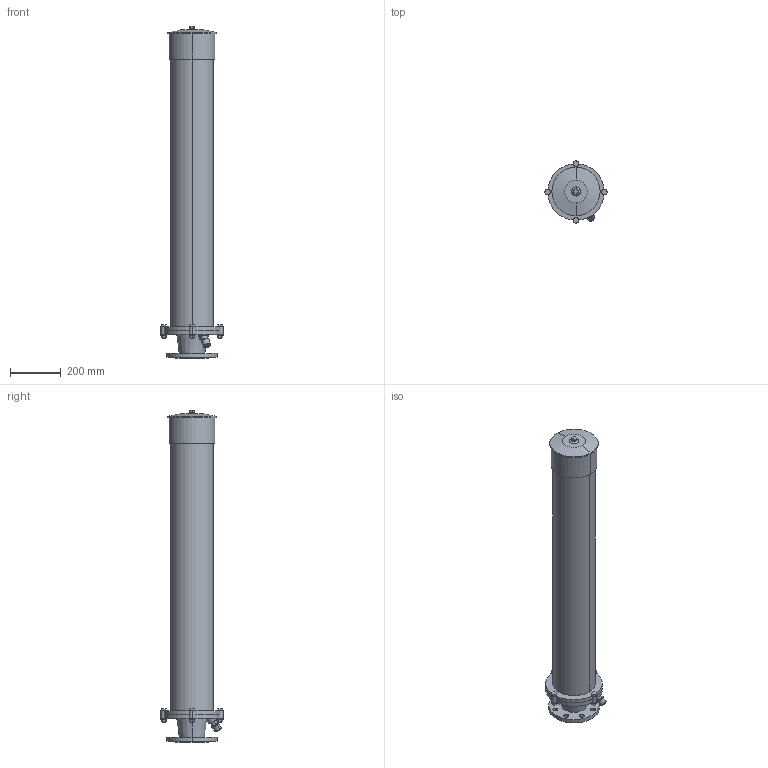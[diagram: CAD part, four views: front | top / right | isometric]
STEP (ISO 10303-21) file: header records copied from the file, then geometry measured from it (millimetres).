
FILE_DESCRIPTION(('STEP AP214'),'1');
FILE_NAME('S:/EK/USER/CAT6/3DHomepage/9822/9822-PN16-DN80-1305.STP','2012-04-26T08:10:07',(' '),(' '),'Spatial InterOp 3D',' ',' ');
FILE_SCHEMA(('automotive_design'));
Length unit declared in the file: millimetre
Products named in the file (37): 3D-Objekt
Bounding box: 245 x 245 x 1305 mm (x, y, z)
Volume: 28653510.8 mm3; surface area: 1185755.3 mm2
Topology: 37 solids, 37 shells, 204 faces, 392 edges, 260 vertices
Faces by surface type: plane 126, cylinder 62, cone 12, torus 4
Entity records: 7729 total; most frequent: DIRECTION 1030, CARTESIAN_POINT 893, ORIENTED_EDGE 784, AXIS2_PLACEMENT_3D 397, EDGE_CURVE 392, VERTEX_POINT 260, STYLED_ITEM 241, PRESENTATION_STYLE_ASSIGNMENT 241
